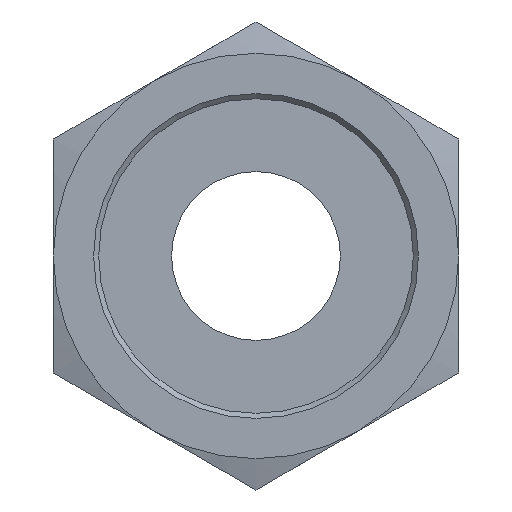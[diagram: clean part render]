
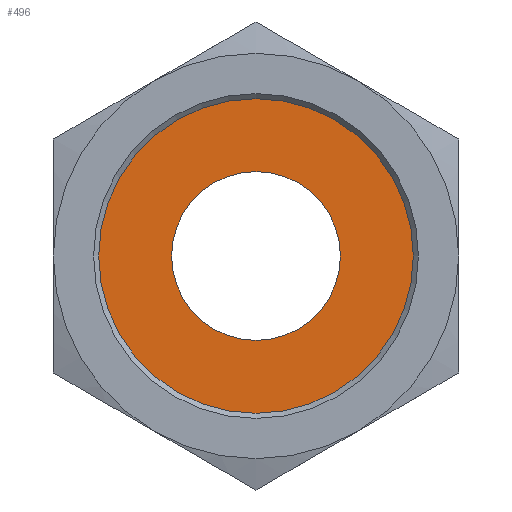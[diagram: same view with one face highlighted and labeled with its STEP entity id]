
A CAD part, front view. The second image highlights one B-rep face of the part: STEP entity #496.
In plain terms, the highlighted planar face has unit normal (0, -1, 0).
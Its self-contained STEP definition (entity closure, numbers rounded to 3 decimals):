
#56=FACE_BOUND('',#126,.T.);
#64=PLANE('',#578);
#86=FACE_OUTER_BOUND('',#125,.T.);
#125=EDGE_LOOP('',(#380));
#126=EDGE_LOOP('',(#381));
#187=CIRCLE('',#547,5.);
#202=CIRCLE('',#570,9.316);
#220=VERTEX_POINT('',#773);
#234=VERTEX_POINT('',#815);
#265=EDGE_CURVE('',#220,#220,#187,.T.);
#285=EDGE_CURVE('',#234,#234,#202,.T.);
#380=ORIENTED_EDGE('',*,*,#285,.T.);
#381=ORIENTED_EDGE('',*,*,#265,.T.);
#496=ADVANCED_FACE('',(#86,#56),#64,.T.);
#547=AXIS2_PLACEMENT_3D('',#775,#621,#622);
#570=AXIS2_PLACEMENT_3D('',#817,#672,#673);
#578=AXIS2_PLACEMENT_3D('',#831,#688,#689);
#621=DIRECTION('center_axis',(0.,1.,0.));
#622=DIRECTION('ref_axis',(1.,0.,0.));
#672=DIRECTION('center_axis',(0.,-1.,0.));
#673=DIRECTION('ref_axis',(1.,0.,0.));
#688=DIRECTION('center_axis',(0.,-1.,0.));
#689=DIRECTION('ref_axis',(1.,0.,0.));
#773=CARTESIAN_POINT('',(-5.,14.5,0.));
#775=CARTESIAN_POINT('Origin',(0.,14.5,0.));
#815=CARTESIAN_POINT('',(-9.316,14.5,0.));
#817=CARTESIAN_POINT('Origin',(0.,14.5,0.));
#831=CARTESIAN_POINT('Origin',(0.,14.5,0.));
